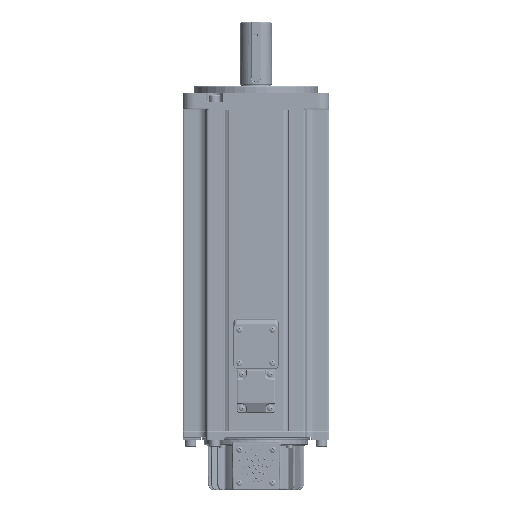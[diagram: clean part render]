
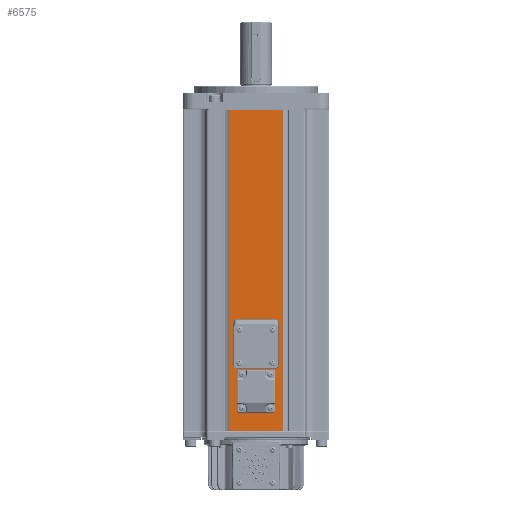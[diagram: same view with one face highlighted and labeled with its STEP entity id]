
A CAD part, front view. The second image highlights one B-rep face of the part: STEP entity #6575.
In plain terms, the highlighted planar face has unit normal (0, -1, 0).
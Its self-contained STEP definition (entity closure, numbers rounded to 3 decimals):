
#1700=CARTESIAN_POINT('',(-14.672,-65.,-52.328));
#1701=DIRECTION('',(0.,1.,0.));
#1702=DIRECTION('',(0.,0.,-1.));
#1703=AXIS2_PLACEMENT_3D('',#1700,#1701,#1702);
#1705=CARTESIAN_POINT('',(-14.672,-65.,-52.328));
#1706=DIRECTION('',(0.,1.,0.));
#1707=DIRECTION('',(0.,0.,1.));
#1708=AXIS2_PLACEMENT_3D('',#1705,#1706,#1707);
#1710=CARTESIAN_POINT('',(14.672,-65.,-52.328));
#1711=DIRECTION('',(0.,1.,0.));
#1712=DIRECTION('',(0.,0.,-1.));
#1713=AXIS2_PLACEMENT_3D('',#1710,#1711,#1712);
#1715=CARTESIAN_POINT('',(14.672,-65.,-52.328));
#1716=DIRECTION('',(0.,1.,0.));
#1717=DIRECTION('',(0.,0.,1.));
#1718=AXIS2_PLACEMENT_3D('',#1715,#1716,#1717);
#1720=CARTESIAN_POINT('',(-14.672,-65.,-81.672));
#1721=DIRECTION('',(0.,1.,0.));
#1722=DIRECTION('',(0.,0.,-1.));
#1723=AXIS2_PLACEMENT_3D('',#1720,#1721,#1722);
#1725=CARTESIAN_POINT('',(-14.672,-65.,-81.672));
#1726=DIRECTION('',(0.,1.,0.));
#1727=DIRECTION('',(0.,0.,1.));
#1728=AXIS2_PLACEMENT_3D('',#1725,#1726,#1727);
#1730=CARTESIAN_POINT('',(14.672,-65.,-81.672));
#1731=DIRECTION('',(0.,1.,0.));
#1732=DIRECTION('',(0.,0.,-1.));
#1733=AXIS2_PLACEMENT_3D('',#1730,#1731,#1732);
#1735=CARTESIAN_POINT('',(14.672,-65.,-81.672));
#1736=DIRECTION('',(0.,1.,0.));
#1737=DIRECTION('',(0.,0.,1.));
#1738=AXIS2_PLACEMENT_3D('',#1735,#1736,#1737);
#1740=CARTESIAN_POINT('',(0.,-65.,-51.));
#1741=DIRECTION('',(0.,1.,0.));
#1742=DIRECTION('',(0.,0.,-1.));
#1743=AXIS2_PLACEMENT_3D('',#1740,#1741,#1742);
#1745=CARTESIAN_POINT('',(0.,-65.,-51.));
#1746=DIRECTION('',(0.,1.,0.));
#1747=DIRECTION('',(0.,0.,1.));
#1748=AXIS2_PLACEMENT_3D('',#1745,#1746,#1747);
#1750=CARTESIAN_POINT('',(-12.5,-65.,-91.7));
#1751=DIRECTION('',(0.,1.,0.));
#1752=DIRECTION('',(0.,0.,-1.));
#1753=AXIS2_PLACEMENT_3D('',#1750,#1751,#1752);
#1755=CARTESIAN_POINT('',(-12.5,-65.,-91.7));
#1756=DIRECTION('',(0.,1.,0.));
#1757=DIRECTION('',(0.,0.,1.));
#1758=AXIS2_PLACEMENT_3D('',#1755,#1756,#1757);
#1760=CARTESIAN_POINT('',(12.5,-65.,-91.7));
#1761=DIRECTION('',(0.,1.,0.));
#1762=DIRECTION('',(0.,0.,-1.));
#1763=AXIS2_PLACEMENT_3D('',#1760,#1761,#1762);
#1765=CARTESIAN_POINT('',(12.5,-65.,-91.7));
#1766=DIRECTION('',(0.,1.,0.));
#1767=DIRECTION('',(0.,0.,1.));
#1768=AXIS2_PLACEMENT_3D('',#1765,#1766,#1767);
#1770=CARTESIAN_POINT('',(-12.5,-65.,-121.7));
#1771=DIRECTION('',(0.,1.,0.));
#1772=DIRECTION('',(0.,0.,-1.));
#1773=AXIS2_PLACEMENT_3D('',#1770,#1771,#1772);
#1775=CARTESIAN_POINT('',(-12.5,-65.,-121.7));
#1776=DIRECTION('',(0.,1.,0.));
#1777=DIRECTION('',(0.,0.,1.));
#1778=AXIS2_PLACEMENT_3D('',#1775,#1776,#1777);
#1780=CARTESIAN_POINT('',(12.5,-65.,-121.7));
#1781=DIRECTION('',(0.,1.,0.));
#1782=DIRECTION('',(0.,0.,-1.));
#1783=AXIS2_PLACEMENT_3D('',#1780,#1781,#1782);
#1785=CARTESIAN_POINT('',(12.5,-65.,-121.7));
#1786=DIRECTION('',(0.,1.,0.));
#1787=DIRECTION('',(0.,0.,1.));
#1788=AXIS2_PLACEMENT_3D('',#1785,#1786,#1787);
#1790=CARTESIAN_POINT('',(0.,-65.,-99.7));
#1791=DIRECTION('',(0.,1.,0.));
#1792=DIRECTION('',(1.,0.,0.));
#1793=AXIS2_PLACEMENT_3D('',#1790,#1791,#1792);
#1795=CARTESIAN_POINT('',(0.,-65.,-99.7));
#1796=DIRECTION('',(0.,1.,0.));
#1797=DIRECTION('',(-1.,0.,0.));
#1798=AXIS2_PLACEMENT_3D('',#1795,#1796,#1797);
#1800=CARTESIAN_POINT('',(0.,-65.,-67.));
#1801=DIRECTION('',(0.,1.,0.));
#1802=DIRECTION('',(1.,0.,0.));
#1803=AXIS2_PLACEMENT_3D('',#1800,#1801,#1802);
#1805=CARTESIAN_POINT('',(0.,-65.,-67.));
#1806=DIRECTION('',(0.,1.,0.));
#1807=DIRECTION('',(-1.,0.,0.));
#1808=AXIS2_PLACEMENT_3D('',#1805,#1806,#1807);
#1810=DIRECTION('',(1.,0.,0.));
#1811=VECTOR('',#1810,47.823);
#1812=CARTESIAN_POINT('',(-23.912,-65.,-142.));
#1813=LINE('',#1812,#1811);
#1814=DIRECTION('',(0.,0.,-1.));
#1815=VECTOR('',#1814,284.);
#1816=CARTESIAN_POINT('',(-23.912,-65.,142.));
#1817=LINE('',#1816,#1815);
#1818=DIRECTION('',(-1.,0.,0.));
#1819=VECTOR('',#1818,47.823);
#1820=CARTESIAN_POINT('',(23.912,-65.,142.));
#1821=LINE('',#1820,#1819);
#1822=DIRECTION('',(0.,0.,1.));
#1823=VECTOR('',#1822,284.);
#1824=CARTESIAN_POINT('',(23.912,-65.,-142.));
#1825=LINE('',#1824,#1823);
#4716=CARTESIAN_POINT('',(23.912,-65.,-142.));
#4717=VERTEX_POINT('',#4716);
#4722=CARTESIAN_POINT('',(-23.912,-65.,-142.));
#4723=VERTEX_POINT('',#4722);
#5096=CARTESIAN_POINT('',(23.912,-65.,142.));
#5097=VERTEX_POINT('',#5096);
#5102=CARTESIAN_POINT('',(-23.912,-65.,142.));
#5103=VERTEX_POINT('',#5102);
#5509=CARTESIAN_POINT('',(-7.,-65.,-99.7));
#5511=VERTEX_POINT('',#5509);
#5513=CARTESIAN_POINT('',(7.,-65.,-99.7));
#5515=VERTEX_POINT('',#5513);
#5517=CARTESIAN_POINT('',(-11.,-65.,-67.));
#5519=VERTEX_POINT('',#5517);
#5520=CARTESIAN_POINT('',(11.,-65.,-67.));
#5521=VERTEX_POINT('',#5520);
#5523=CARTESIAN_POINT('',(-14.672,-65.,-53.578));
#5525=VERTEX_POINT('',#5523);
#5527=CARTESIAN_POINT('',(-14.672,-65.,-51.078));
#5529=VERTEX_POINT('',#5527);
#5531=CARTESIAN_POINT('',(14.672,-65.,-53.578));
#5533=VERTEX_POINT('',#5531);
#5535=CARTESIAN_POINT('',(14.672,-65.,-51.078));
#5537=VERTEX_POINT('',#5535);
#5539=CARTESIAN_POINT('',(-14.672,-65.,-82.922));
#5541=VERTEX_POINT('',#5539);
#5543=CARTESIAN_POINT('',(-14.672,-65.,-80.422));
#5545=VERTEX_POINT('',#5543);
#5547=CARTESIAN_POINT('',(14.672,-65.,-82.922));
#5549=VERTEX_POINT('',#5547);
#5551=CARTESIAN_POINT('',(14.672,-65.,-80.422));
#5553=VERTEX_POINT('',#5551);
#5555=CARTESIAN_POINT('',(0.,-65.,-52.25));
#5557=VERTEX_POINT('',#5555);
#5559=CARTESIAN_POINT('',(0.,-65.,-49.75));
#5561=VERTEX_POINT('',#5559);
#5563=CARTESIAN_POINT('',(-12.5,-65.,-92.95));
#5565=VERTEX_POINT('',#5563);
#5567=CARTESIAN_POINT('',(-12.5,-65.,-90.45));
#5569=VERTEX_POINT('',#5567);
#5571=CARTESIAN_POINT('',(12.5,-65.,-92.95));
#5573=VERTEX_POINT('',#5571);
#5575=CARTESIAN_POINT('',(12.5,-65.,-90.45));
#5577=VERTEX_POINT('',#5575);
#5579=CARTESIAN_POINT('',(-12.5,-65.,-122.95));
#5581=VERTEX_POINT('',#5579);
#5583=CARTESIAN_POINT('',(-12.5,-65.,-120.45));
#5585=VERTEX_POINT('',#5583);
#5587=CARTESIAN_POINT('',(12.5,-65.,-122.95));
#5589=VERTEX_POINT('',#5587);
#5591=CARTESIAN_POINT('',(12.5,-65.,-120.45));
#5593=VERTEX_POINT('',#5591);
#6496=CARTESIAN_POINT('',(-43.912,-65.,300.));
#6497=DIRECTION('',(0.,1.,0.));
#6498=DIRECTION('',(-1.,0.,0.));
#6499=AXIS2_PLACEMENT_3D('',#6496,#6497,#6498);
#6500=PLANE('',#6499);
#6502=ORIENTED_EDGE('',*,*,#6501,.F.);
#6504=ORIENTED_EDGE('',*,*,#6503,.F.);
#6506=ORIENTED_EDGE('',*,*,#6505,.F.);
#6508=ORIENTED_EDGE('',*,*,#6507,.F.);
#6509=EDGE_LOOP('',(#6502,#6504,#6506,#6508));
#6510=FACE_OUTER_BOUND('',#6509,.F.);
#6512=ORIENTED_EDGE('',*,*,#6511,.F.);
#6514=ORIENTED_EDGE('',*,*,#6513,.F.);
#6515=EDGE_LOOP('',(#6512,#6514));
#6516=FACE_BOUND('',#6515,.F.);
#6518=ORIENTED_EDGE('',*,*,#6517,.F.);
#6520=ORIENTED_EDGE('',*,*,#6519,.F.);
#6521=EDGE_LOOP('',(#6518,#6520));
#6522=FACE_BOUND('',#6521,.F.);
#6524=ORIENTED_EDGE('',*,*,#6523,.F.);
#6526=ORIENTED_EDGE('',*,*,#6525,.F.);
#6527=EDGE_LOOP('',(#6524,#6526));
#6528=FACE_BOUND('',#6527,.F.);
#6530=ORIENTED_EDGE('',*,*,#6529,.F.);
#6532=ORIENTED_EDGE('',*,*,#6531,.F.);
#6533=EDGE_LOOP('',(#6530,#6532));
#6534=FACE_BOUND('',#6533,.F.);
#6536=ORIENTED_EDGE('',*,*,#6535,.F.);
#6538=ORIENTED_EDGE('',*,*,#6537,.F.);
#6539=EDGE_LOOP('',(#6536,#6538));
#6540=FACE_BOUND('',#6539,.F.);
#6542=ORIENTED_EDGE('',*,*,#6541,.F.);
#6544=ORIENTED_EDGE('',*,*,#6543,.F.);
#6545=EDGE_LOOP('',(#6542,#6544));
#6546=FACE_BOUND('',#6545,.F.);
#6548=ORIENTED_EDGE('',*,*,#6547,.F.);
#6550=ORIENTED_EDGE('',*,*,#6549,.F.);
#6551=EDGE_LOOP('',(#6548,#6550));
#6552=FACE_BOUND('',#6551,.F.);
#6554=ORIENTED_EDGE('',*,*,#6553,.F.);
#6556=ORIENTED_EDGE('',*,*,#6555,.F.);
#6557=EDGE_LOOP('',(#6554,#6556));
#6558=FACE_BOUND('',#6557,.F.);
#6560=ORIENTED_EDGE('',*,*,#6559,.F.);
#6562=ORIENTED_EDGE('',*,*,#6561,.F.);
#6563=EDGE_LOOP('',(#6560,#6562));
#6564=FACE_BOUND('',#6563,.F.);
#6566=ORIENTED_EDGE('',*,*,#6565,.F.);
#6568=ORIENTED_EDGE('',*,*,#6567,.F.);
#6569=EDGE_LOOP('',(#6566,#6568));
#6570=FACE_BOUND('',#6569,.F.);
#6571=ORIENTED_EDGE('',*,*,#6141,.F.);
#6572=ORIENTED_EDGE('',*,*,#6126,.F.);
#6573=EDGE_LOOP('',(#6571,#6572));
#6574=FACE_BOUND('',#6573,.F.);
#6575=ADVANCED_FACE('',(#6510,#6516,#6522,#6528,#6534,#6540,#6546,#6552,#6558,
#6564,#6570,#6574),#6500,.F.);
#1704=CIRCLE('',#1703,1.25);
#1709=CIRCLE('',#1708,1.25);
#1714=CIRCLE('',#1713,1.25);
#1719=CIRCLE('',#1718,1.25);
#1724=CIRCLE('',#1723,1.25);
#1729=CIRCLE('',#1728,1.25);
#1734=CIRCLE('',#1733,1.25);
#1739=CIRCLE('',#1738,1.25);
#1744=CIRCLE('',#1743,1.25);
#1749=CIRCLE('',#1748,1.25);
#1754=CIRCLE('',#1753,1.25);
#1759=CIRCLE('',#1758,1.25);
#1764=CIRCLE('',#1763,1.25);
#1769=CIRCLE('',#1768,1.25);
#1774=CIRCLE('',#1773,1.25);
#1779=CIRCLE('',#1778,1.25);
#1784=CIRCLE('',#1783,1.25);
#1789=CIRCLE('',#1788,1.25);
#1794=CIRCLE('',#1793,7.);
#1799=CIRCLE('',#1798,7.);
#1804=CIRCLE('',#1803,11.);
#1809=CIRCLE('',#1808,11.);
#6126=EDGE_CURVE('',#5519,#5521,#1809,.T.);
#6141=EDGE_CURVE('',#5521,#5519,#1804,.T.);
#6501=EDGE_CURVE('',#4723,#4717,#1813,.T.);
#6503=EDGE_CURVE('',#5103,#4723,#1817,.T.);
#6505=EDGE_CURVE('',#5097,#5103,#1821,.T.);
#6507=EDGE_CURVE('',#4717,#5097,#1825,.T.);
#6511=EDGE_CURVE('',#5525,#5529,#1704,.T.);
#6513=EDGE_CURVE('',#5529,#5525,#1709,.T.);
#6517=EDGE_CURVE('',#5533,#5537,#1714,.T.);
#6519=EDGE_CURVE('',#5537,#5533,#1719,.T.);
#6523=EDGE_CURVE('',#5541,#5545,#1724,.T.);
#6525=EDGE_CURVE('',#5545,#5541,#1729,.T.);
#6529=EDGE_CURVE('',#5549,#5553,#1734,.T.);
#6531=EDGE_CURVE('',#5553,#5549,#1739,.T.);
#6535=EDGE_CURVE('',#5557,#5561,#1744,.T.);
#6537=EDGE_CURVE('',#5561,#5557,#1749,.T.);
#6541=EDGE_CURVE('',#5565,#5569,#1754,.T.);
#6543=EDGE_CURVE('',#5569,#5565,#1759,.T.);
#6547=EDGE_CURVE('',#5573,#5577,#1764,.T.);
#6549=EDGE_CURVE('',#5577,#5573,#1769,.T.);
#6553=EDGE_CURVE('',#5581,#5585,#1774,.T.);
#6555=EDGE_CURVE('',#5585,#5581,#1779,.T.);
#6559=EDGE_CURVE('',#5589,#5593,#1784,.T.);
#6561=EDGE_CURVE('',#5593,#5589,#1789,.T.);
#6565=EDGE_CURVE('',#5515,#5511,#1794,.T.);
#6567=EDGE_CURVE('',#5511,#5515,#1799,.T.);
